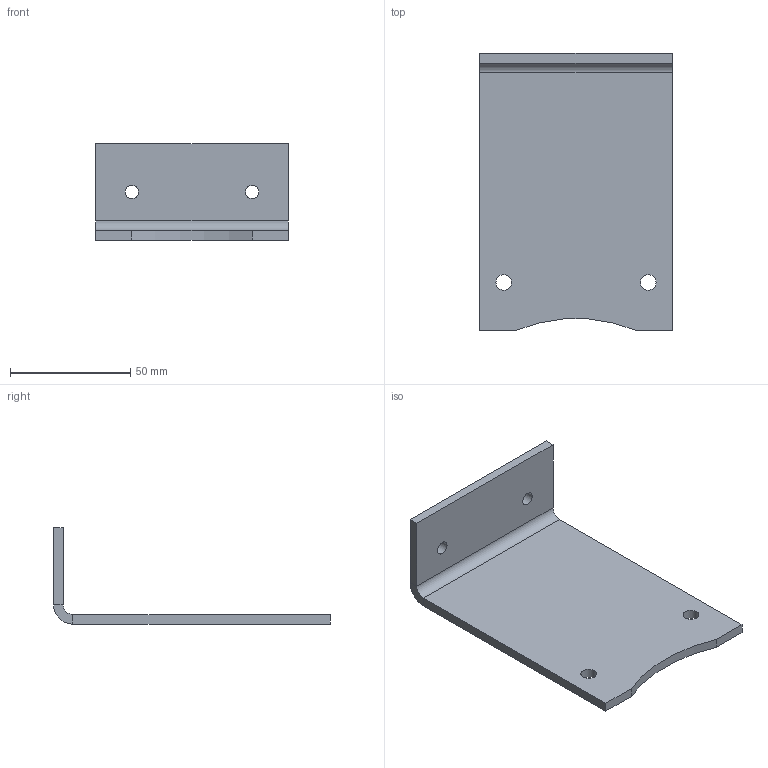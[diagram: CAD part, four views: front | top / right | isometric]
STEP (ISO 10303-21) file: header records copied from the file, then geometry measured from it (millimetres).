
FILE_DESCRIPTION(('STEP AP214'), '1');
FILE_NAME('SkobaRabo_goriz', '2014-12-05T09:07:24', (''), (''), 'ASCON STEP Converter 1.3', 'ASCON Math Kernel', '');
FILE_SCHEMA(('AUTOMOTIVE_DESIGN { 1 0 10303 214 3 1 1}'));
Length unit declared in the file: millimetre
Products named in the file (1): 5
Bounding box: 80 x 115 x 40 mm (x, y, z)
Volume: 46368.4 mm3; surface area: 25318.5 mm2
Topology: 1 solids, 1 shells, 20 faces, 46 edges, 28 vertices
Faces by surface type: plane 13, cylinder 7
Full cylindrical faces by diameter (mm): 5.5 x2, 6.5 x2
Entity records: 615 total; most frequent: DIRECTION 102, CARTESIAN_POINT 95, ORIENTED_EDGE 92, EDGE_CURVE 46, AXIS2_PLACEMENT_3D 35, LINE 32, VECTOR 32, EDGE_LOOP 28
